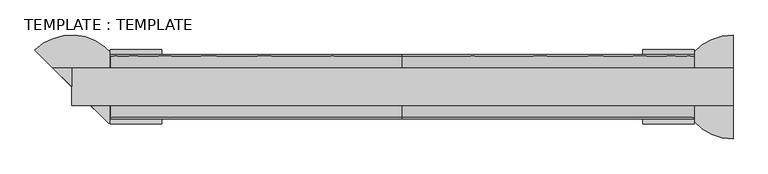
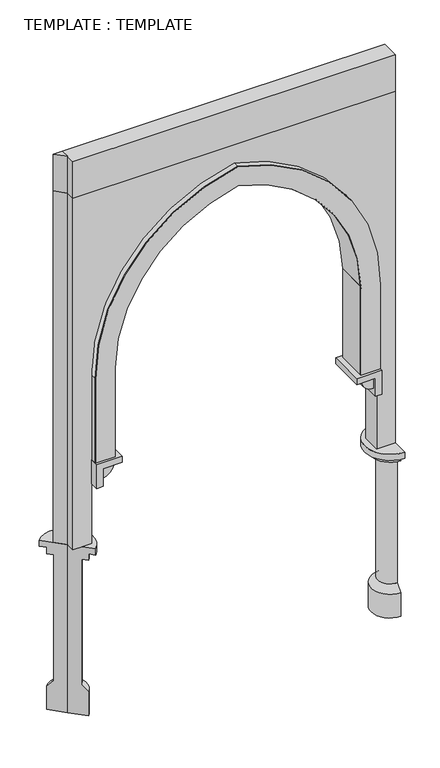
"""IFC4 building model written with IfcOpenShell, lengths in millimetres: plate geometry, TEMPLATE : TEMPLATE."""

import ifcopenshell
import ifcopenshell.guid

model = None  # the IFC model being written
_history = None  # IfcOwnerHistory: only IFC2X3 demands one
_inside = {}  # id of a spatial element -> (the spatial element, [elements in it])
_under = {}  # id of a project, library or spatial element -> (it, [spatial elements below it])
_declared = {}  # id of a project -> (the project, [libraries it declares])
_typed = {}  # id of a type object -> (the type object, [elements of that type])
_made_of = {}  # id of a material, layer set ... -> (it, [elements and type objects made of it])


def new_model(schema):
    """Start an empty IFC model of exactly this schema.

    Asked for "IFC4X3", IfcOpenShell would pick the latest addendum, in which some entities
    have other attributes; the version numbers below select the first issue.
    IFC2X3 requires an IfcOwnerHistory on every rooted entity: one is made here for all.
    """
    global model, _history
    if schema == "IFC4X3":
        model = ifcopenshell.file(schema_version=(4, 3, 0, 0))
    else:
        model = ifcopenshell.file(schema=schema)
    _inside.clear()
    _under.clear()
    _declared.clear()
    _typed.clear()
    _made_of.clear()
    _history = None
    if model.schema == "IFC2X3":
        org = make("IfcOrganization", Name="unknown")
        user = make(
            "IfcPersonAndOrganization",
            ThePerson=make("IfcPerson", FamilyName="unknown"),
            TheOrganization=org,
        )
        app = make(
            "IfcApplication",
            ApplicationDeveloper=org,
            Version="unknown",
            ApplicationFullName="unknown",
            ApplicationIdentifier="unknown",
        )
        _history = make(
            "IfcOwnerHistory",
            OwningUser=user,
            OwningApplication=app,
            ChangeAction="ADDED",
            CreationDate=0,
        )
    return model


def make(cls, **values):
    """One entity of the class cls with the attributes given. An attribute that is None is left unset."""
    return model.create_entity(
        cls, **{name: value for name, value in values.items() if value is not None}
    )


def rooted(cls, **values):
    """An entity with a GlobalId (a new one), such as an element, a storey or a relation."""
    return make(cls, GlobalId=ifcopenshell.guid.new(), OwnerHistory=_history, **values)


def si_unit(unit_type, name, prefix=None):
    """IfcSIUnit, for example si_unit("LENGTHUNIT", "METRE", prefix="MILLI")."""
    return make("IfcSIUnit", UnitType=unit_type, Prefix=prefix, Name=name)


def assignment(units):
    """IfcUnitAssignment: the units of a project."""
    return None if units is None else make("IfcUnitAssignment", Units=units)


def point(xyz):
    """IfcCartesianPoint."""
    return None if xyz is None else make("IfcCartesianPoint", Coordinates=xyz)


def direction(xyz):
    """IfcDirection."""
    return None if xyz is None else make("IfcDirection", DirectionRatios=xyz)


def frame(location, z_axis=None, x_axis=None):
    """IfcAxis2Placement3D, a coordinate frame: its origin and axes. An axis left out is left unset."""
    return make(
        "IfcAxis2Placement3D",
        Location=point(location),
        Axis=direction(z_axis),
        RefDirection=direction(x_axis),
    )


def frame_2d(location, x_axis=None):
    """IfcAxis2Placement2D, a coordinate frame in the plane: its origin and x axis."""
    return make(
        "IfcAxis2Placement2D", Location=point(location), RefDirection=direction(x_axis)
    )


def origin():
    """The frame at (0, 0, 0) with its axes left unset."""
    return frame((0.0, 0.0, 0.0))


def place(relative_to, where):
    """IfcLocalPlacement: puts the frame where relative to a parent placement (None: the world)."""
    return make(
        "IfcLocalPlacement", PlacementRelTo=relative_to, RelativePlacement=where
    )


def context(
    kind, dimensions, precision=None, world=None, true_north=None, identifier=None
):
    """IfcGeometricRepresentationContext, for example the 3D "Model" context."""
    return make(
        "IfcGeometricRepresentationContext",
        ContextIdentifier=identifier,
        ContextType=kind,
        CoordinateSpaceDimension=dimensions,
        Precision=precision,
        WorldCoordinateSystem=world,
        TrueNorth=true_north,
    )


def project(units=None, contexts=None):
    """IfcProject with its units and contexts."""
    return rooted(
        "IfcProject",
        Name="project",
        RepresentationContexts=contexts,
        UnitsInContext=assignment(units),
    )


def spatial(cls, under=None, at=None, **own):
    """A site, building, storey or space (cls), placed at a placement, below another one or the project."""
    s = rooted(cls, ObjectPlacement=at, **own)
    if under is not None:
        _under.setdefault(under.id(), (under, []))[1].append(s)
    return s


def polyline(points):
    """IfcPolyline through the points."""
    return make("IfcPolyline", Points=[point(p) for p in points])


def circle_curve(where, radius):
    """IfcCircle in the frame where."""
    return make("IfcCircle", Position=where, Radius=radius)


def trimmed(basis, trim1, trim2, sense, master):
    """IfcTrimmedCurve: the piece of a basis curve between two trims."""
    return make(
        "IfcTrimmedCurve",
        BasisCurve=basis,
        Trim1=trim1,
        Trim2=trim2,
        SenseAgreement=sense,
        MasterRepresentation=master,
    )


def segment(curve, same_sense, transition):
    """IfcCompositeCurveSegment."""
    return make(
        "IfcCompositeCurveSegment",
        Transition=transition,
        SameSense=same_sense,
        ParentCurve=curve,
    )


def composite_curve(segments, self_intersect=None):
    """IfcCompositeCurve: segments joined end to end."""
    return make("IfcCompositeCurve", Segments=segments, SelfIntersect=self_intersect)


def outline(outer, holes=None, kind="AREA"):
    """IfcArbitraryClosedProfileDef: a profile drawn as a closed curve; with holes, ...WithVoids."""
    if holes is None:
        return make("IfcArbitraryClosedProfileDef", ProfileType=kind, OuterCurve=outer)
    return make(
        "IfcArbitraryProfileDefWithVoids",
        ProfileType=kind,
        OuterCurve=outer,
        InnerCurves=holes,
    )


def extrude(swept, where, along, depth):
    """IfcExtrudedAreaSolid: the profile swept, set in the frame where, extruded along a direction by depth."""
    return make(
        "IfcExtrudedAreaSolid",
        SweptArea=swept,
        Position=where,
        ExtrudedDirection=direction(along),
        Depth=depth,
    )


def shape(context_of_items, identifier, shape_type, items):
    """IfcShapeRepresentation: the items that make up one representation, for example the "Body"."""
    return make(
        "IfcShapeRepresentation",
        ContextOfItems=context_of_items,
        RepresentationIdentifier=identifier,
        RepresentationType=shape_type,
        Items=items,
    )


def source(mapping_origin, context_of_items, identifier, shape_type, items):
    """IfcRepresentationMap: a shape defined once, which mapped items show again and again."""
    return make(
        "IfcRepresentationMap",
        MappingOrigin=mapping_origin,
        MappedRepresentation=shape(context_of_items, identifier, shape_type, items),
    )


def transform(
    local_origin,
    x_axis=None,
    y_axis=None,
    z_axis=None,
    scale=None,
    scale2=None,
    scale3=None,
    uniform=True,
):
    """IfcCartesianTransformationOperator3D, or its non-uniform kind. x_axis, y_axis, z_axis: its Axis1, 2, 3."""
    if uniform:
        return make(
            "IfcCartesianTransformationOperator3D",
            Axis1=direction(x_axis),
            Axis2=direction(y_axis),
            LocalOrigin=point(local_origin),
            Scale=scale,
            Axis3=direction(z_axis),
        )
    return make(
        "IfcCartesianTransformationOperator3DnonUniform",
        Axis1=direction(x_axis),
        Axis2=direction(y_axis),
        LocalOrigin=point(local_origin),
        Scale=scale,
        Axis3=direction(z_axis),
        Scale2=scale2,
        Scale3=scale3,
    )


def mapped(mapping_source, mapping_target):
    """IfcMappedItem: shows the shape of a source again, moved by a transform."""
    return make(
        "IfcMappedItem", MappingSource=mapping_source, MappingTarget=mapping_target
    )


def made_of(thing, what):
    """Note that an element or type object is made of a material, layer set ...; save() writes the relation."""
    if what is not None:
        _made_of.setdefault(what.id(), (what, []))[1].append(thing)
    return thing


def element(
    cls,
    number,
    at=None,
    inside=None,
    cuts=None,
    type_object=None,
    material=None,
    context=None,
    identifier="Body",
    shape_type=None,
    held_by="IfcProductDefinitionShape",
    body=None,
    shapes=None,
    **own,
):
    """One element of the class cls, such as IfcWall. Its Tag is "e" and its number.

    at: its placement. inside: the storey or other place that contains it. cuts: it is an
    opening in that element (IfcRelVoidsElement). A single representation is given by context,
    identifier, shape_type and body (its items); several are given by shapes. held_by: the class
    of the entity that holds the representations. save() writes the other relations.
    """
    e = rooted(cls, Tag="e%d" % number, ObjectPlacement=at, **own)
    if body is not None:
        shapes = [shape(context, identifier, shape_type, body)]
    if shapes is not None:
        e.Representation = make(held_by, Representations=shapes)
    if inside is not None:
        _inside.setdefault(inside.id(), (inside, []))[1].append(e)
    if cuts is not None:
        rooted(
            "IfcRelVoidsElement", RelatingBuildingElement=cuts, RelatedOpeningElement=e
        )
    if type_object is not None:
        _typed.setdefault(type_object.id(), (type_object, []))[1].append(e)
    return made_of(e, material)


def aggregate(whole, parts):
    """IfcRelAggregates: a whole, such as a stair, and the parts it consists of."""
    return rooted("IfcRelAggregates", RelatingObject=whole, RelatedObjects=parts)


def save(model, path):
    """Write the relations noted so far, then the file.

    IfcRelAggregates (storeys below a building ...), IfcRelContainedInSpatialStructure (elements
    in a storey), IfcRelDefinesByType, IfcRelAssociatesMaterial and IfcRelDeclares: one each for
    every whole, place, type object, material and project.
    """
    for whole, parts in _under.values():
        aggregate(whole, parts)
    for where, things in _inside.values():
        rooted(
            "IfcRelContainedInSpatialStructure",
            RelatedElements=things,
            RelatingStructure=where,
        )
    for kind, things in _typed.values():
        rooted("IfcRelDefinesByType", RelatedObjects=things, RelatingType=kind)
    for what, things in _made_of.values():
        rooted("IfcRelAssociatesMaterial", RelatedObjects=things, RelatingMaterial=what)
    for by, libraries in _declared.values():
        rooted("IfcRelDeclares", RelatingContext=by, RelatedDefinitions=libraries)
    model.write(path)


def plane_surface(at):
    """IfcPlane: the flat surface through the origin of the frame at, square to its z axis."""
    return make("IfcPlane", Position=at)


def cylinder_surface(at, radius):
    """IfcCylindricalSurface: all points at the distance radius from the z axis of the frame at."""
    return make("IfcCylindricalSurface", Position=at, Radius=radius)


def revolved_surface(curve, axis_point, axis_direction):
    """IfcSurfaceOfRevolution: the curve turned about the line through axis_point along axis_direction."""
    return make(
        "IfcSurfaceOfRevolution",
        SweptCurve=make("IfcArbitraryOpenProfileDef", ProfileType="CURVE", Curve=curve),
        AxisPosition=make("IfcAxis1Placement", Location=point(axis_point), Axis=direction(axis_direction)),
    )


def advanced_brep(points, edges, surfaces, faces):
    """IfcAdvancedBrep: a solid bounded by faces that lie on surfaces and meet in shared edges.

    An edge is (start, end): straight between two places in points (the first is 0);
    or (start, end, curve); or (start, end, curve, False) where it runs against its curve.
    A face is (place in surfaces, loops), or (place, loops, False) where it looks against
    its surface's normal. A loop lists edges by number (the first is 1), with a minus sign
    where the edge is run from its end to its start. The first loop is the outer one.
    """
    corners = [point(p) for p in points]
    vertices = [make("IfcVertexPoint", VertexGeometry=c) for c in corners]
    made = []
    for start, end, *more in edges:
        made.append(
            make(
                "IfcEdgeCurve",
                EdgeStart=vertices[start],
                EdgeEnd=vertices[end],
                EdgeGeometry=more[0] if more else make("IfcPolyline", Points=[corners[start], corners[end]]),
                SameSense=more[1] if len(more) > 1 else True,
            )
        )
    hull = []
    for where, loops, *sense in faces:
        bounds = []
        for j, loop in enumerate(loops):
            ring = [make("IfcOrientedEdge", EdgeElement=made[abs(k) - 1], Orientation=k > 0) for k in loop]
            bounds.append(
                make(
                    "IfcFaceOuterBound" if j == 0 else "IfcFaceBound",
                    Bound=make("IfcEdgeLoop", EdgeList=ring),
                    Orientation=True,
                )
            )
        hull.append(make("IfcAdvancedFace", Bounds=bounds, FaceSurface=surfaces[where], SameSense=sense[0] if sense else True))
    return make("IfcAdvancedBrep", Outer=make("IfcClosedShell", CfsFaces=hull))


def template_template_bfb4942e(model_context):
    return source(origin(), model_context, "Body", "SolidModel", [
        extrude(outline(polyline([(-1250.0, 0.0), (-1321.2450521, 71.2450521), (-1250.0, 71.2450521), (-1250.0, 0.0)])), frame((0.0, 0.0, 4250.0), z_axis=(0.0, 0.0, 1.0), x_axis=(1.0, 0.0, 0.0)), (0.0, 0.0, 1.0), 300.0),
        extrude(outline(polyline([(1250.0, -71.2450521), (-1250.0, -71.2450521), (-1250.0, 71.2450521), (1250.0, 71.2450521), (1250.0, -71.2450521)])), frame((0.0, 0.0, 4250.0), z_axis=(0.0, 0.0, 1.0), x_axis=(1.0, 0.0, 0.0)), (0.0, 0.0, 1.0), 300.0),
        extrude(outline(composite_curve([segment(polyline([(2062.5, -1103.90625), (2062.5, -952.8125), (2789.7201638, -952.8125)]), True, "CONTINUOUS"), segment(trimmed(circle_curve(frame_2d((2770.9553186, 249.8536177)), 1202.8125), [point((2789.7201638, -952.8125))], [point((3947.5313169, 0.0))], True, "CARTESIAN"), True, "CONTINUOUS"), segment(trimmed(circle_curve(frame_2d((2770.9553186, -249.8536177)), 1202.8125), [point((3947.5313169, 0.0))], [point((2789.7201638, 952.8125))], True, "CARTESIAN"), True, "CONTINUOUS"), segment(polyline([(2789.7201638, 952.8125), (2062.5, 952.8125), (2062.5, 1103.90625), (2751.0466695, 1103.90625)]), True, "CONTINUOUS"), segment(trimmed(circle_curve(frame_2d((2770.9553186, -249.8536177)), 1353.90625), [point((2751.0466695, 1103.90625))], [point((4101.6075284, 0.0))], False, "CARTESIAN"), True, "CONTINUOUS"), segment(trimmed(circle_curve(frame_2d((2770.9553186, 249.8536177)), 1353.90625), [point((4101.6075284, 0.0))], [point((2751.0466695, -1103.90625))], False, "CARTESIAN"), True, "CONTINUOUS"), segment(polyline([(2751.0466695, -1103.90625), (2062.5, -1103.90625)]), True, "CONTINUOUS")], self_intersect=False)), frame((0.0, -121.8675781, 0.0), z_axis=(0.0, 1.0, 0.0), x_axis=(0.0, 0.0, 1.0)), (0.0, 0.0, 1.0), 5.0),
        extrude(outline(polyline([(-1250.0, 0.0), (-1321.2450521, 71.2450521), (-1250.0, 71.2450521), (-1250.0, 0.0)])), frame((0.0, 0.0, 1375.0), z_axis=(0.0, 0.0, 1.0), x_axis=(1.0, 0.0, 0.0)), (0.0, 0.0, 1.0), 2875.0),
        extrude(outline(composite_curve([segment(trimmed(circle_curve(frame_2d((2770.9553186, -249.8536177)), 1207.8125), [point((2789.7591277, 957.8125))], [point((3952.642335, 0.0))], False, "CARTESIAN"), True, "CONTINUOUS"), segment(trimmed(circle_curve(frame_2d((2770.9553186, 249.8536177)), 1207.8125), [point((3952.642335, 0.0))], [point((2789.7591277, -957.8125))], False, "CARTESIAN"), True, "CONTINUOUS"), segment(polyline([(2789.7591277, -957.8125), (2789.6812853, -952.813106)]), True, "CONTINUOUS"), segment(trimmed(circle_curve(frame_2d((2770.9553186, 249.8536177)), 1202.8125), [point((2789.6812853, -952.813106))], [point((3947.5313169, 0.0))], True, "CARTESIAN"), True, "CONTINUOUS"), segment(trimmed(circle_curve(frame_2d((2770.9553186, -249.8536177)), 1202.8125), [point((3947.5313169, 0.0))], [point((2789.6812853, 952.813106))], True, "CARTESIAN"), True, "CONTINUOUS"), segment(polyline([(2789.6812853, 952.813106), (2789.7591277, 957.8125)]), True, "CONTINUOUS")], self_intersect=False)), frame((0.0, -116.8675781, 0.0), z_axis=(0.0, 1.0, 0.0), x_axis=(0.0, 0.0, 1.0)), (0.0, 0.0, 1.0), 238.7351563),
        extrude(outline(polyline([(957.8125, -116.8675781), (952.8125, -116.8675781), (952.8125, 121.8675781), (957.8125, 121.8675781), (957.8125, -116.8675781)])), frame((0.0, 0.0, 2062.5), z_axis=(0.0, 0.0, 1.0), x_axis=(1.0, 0.0, 0.0)), (0.0, 0.0, 1.0), 727.2591277),
        extrude(outline(polyline([(-952.8125, -116.8675781), (-957.8125, -116.8675781), (-957.8125, 121.8675781), (-952.8125, 121.8675781), (-952.8125, -116.8675781)])), frame((0.0, 0.0, 2062.5), z_axis=(0.0, 0.0, 1.0), x_axis=(1.0, 0.0, 0.0)), (0.0, 0.0, 1.0), 727.2591277),
        extrude(outline(composite_curve([segment(polyline([(2013.8020833, 1055.2083333), (2013.8020833, 957.8125)]), True, "CONTINUOUS"), segment(trimmed(circle_curve(frame_2d((2013.8020833, 1055.2083333)), 97.3958333), [point((2013.8020833, 957.8125))], [point((1916.40625, 1055.2083333))], False, "CARTESIAN"), True, "CONTINUOUS"), segment(polyline([(1916.40625, 1055.2083333), (2013.8020833, 1055.2083333)]), True, "CONTINUOUS")], self_intersect=False)), frame((0.0, -116.8675781, 0.0), z_axis=(0.0, 1.0, 0.0), x_axis=(0.0, 0.0, 1.0)), (0.0, 0.0, 1.0), 238.7351563),
        extrude(outline(composite_curve([segment(polyline([(2013.8020833, -1055.2083333), (1916.40625, -1055.2083333)]), True, "CONTINUOUS"), segment(trimmed(circle_curve(frame_2d((2013.8020833, -1055.2083333)), 97.3958333), [point((1916.40625, -1055.2083333))], [point((2013.8020833, -957.8125))], False, "CARTESIAN"), True, "CONTINUOUS"), segment(polyline([(2013.8020833, -957.8125), (2013.8020833, -1055.2083333)]), True, "CONTINUOUS")], self_intersect=False)), frame((0.0, -116.8675781, 0.0), z_axis=(0.0, 1.0, 0.0), x_axis=(0.0, 0.0, 1.0)), (0.0, 0.0, 1.0), 238.7351563),
        advanced_brep(
        [(-1110.8841065, -139.1158935, 1375.0), (-1250.0, 0.0, 1375.0), (-1250.0, 0.0, 0.0), (-1146.6961187, -103.3038813, 0.0), (-1146.6961187, -103.3038813, 194.7916667), (-1181.1307458, -68.8692542, 245.4375), (-1181.1307458, -68.8692542, 1273.7083333), (-1146.6961187, -103.3038813, 1273.7083333), (-1146.6961187, -103.3038813, 1324.3541667), (-1110.8841065, -139.1158935, 1324.3541667), (-1389.1158935, 139.1158935, 1375.0), (-1389.1158935, 139.1158935, 1324.3541667), (-1353.3038813, 103.3038813, 1324.3541667), (-1353.3038813, 103.3038813, 1273.7083333), (-1318.8692542, 68.8692542, 1273.7083333), (-1318.8692542, 68.8692542, 245.4375), (-1353.3038813, 103.3038813, 194.7916667), (-1353.3038813, 103.3038813, 0.0)],
        [
            (0, 1),
            (1, 2),
            (2, 3),
            (3, 4),
            (4, 5),
            (5, 6),
            (6, 7),
            (7, 8),
            (8, 9),
            (9, 0),
            (10, 11),
            (11, 12),
            (12, 13),
            (13, 14),
            (14, 15),
            (15, 16),
            (16, 17),
            (17, 2),
            (1, 10),
            (10, 0, circle_curve(frame((-1250.0, 0.0, 1375.0), z_axis=(0.0, 0.0, -1.0), x_axis=(0.7071067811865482, -0.707106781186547, 0.0)), 196.7395833)),
            (9, 11, circle_curve(frame((-1250.0, 0.0, 1324.3541667), z_axis=(0.0, 0.0, 1.0), x_axis=(0.7071067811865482, -0.707106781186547, 0.0)), 196.7395833)),
            (8, 12, circle_curve(frame((-1250.0, 0.0, 1324.3541667), z_axis=(0.0, 0.0, 1.0), x_axis=(0.7071067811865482, -0.707106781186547, 0.0)), 146.09375)),
            (7, 13, circle_curve(frame((-1250.0, 0.0, 1273.7083333), z_axis=(0.0, 0.0, 1.0), x_axis=(0.7071067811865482, -0.707106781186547, 0.0)), 146.09375)),
            (6, 14, circle_curve(frame((-1250.0, 0.0, 1273.7083333), z_axis=(0.0, 0.0, 1.0), x_axis=(0.7071067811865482, -0.707106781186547, 0.0)), 97.3958333)),
            (5, 15, circle_curve(frame((-1250.0, 0.0, 245.4375), z_axis=(0.0, 0.0, 1.0), x_axis=(0.7071067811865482, -0.707106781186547, 0.0)), 97.3958333)),
            (4, 16, circle_curve(frame((-1250.0, 0.0, 194.7916667), z_axis=(0.0, 0.0, 1.0), x_axis=(0.7071067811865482, -0.707106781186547, 0.0)), 146.09375)),
            (3, 17, circle_curve(frame((-1250.0, 0.0, 0.0), z_axis=(0.0, 0.0, 1.0), x_axis=(0.7071067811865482, -0.707106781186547, 0.0)), 146.09375)),
        ],
        [
            plane_surface(frame((-1250.0, 0.0, -1400.0), z_axis=(-0.707106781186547, -0.7071067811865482, 0.0), x_axis=(0.7071067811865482, -0.707106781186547, 0.0))),
            plane_surface(frame((-1250.0, 0.0, -1400.0), z_axis=(-0.7071067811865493, -0.7071067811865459, 0.0), x_axis=(-0.7071067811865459, 0.7071067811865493, 0.0))),
            cylinder_surface(frame((-1250.0, 0.0, -1400.0), z_axis=(0.0, 0.0, 1.0), x_axis=(0.7071067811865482, -0.707106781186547, 0.0)), 196.7395833),
            plane_surface(frame((-1250.0, 0.0, 1324.3541667), z_axis=(0.0, 0.0, -1.0000000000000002), x_axis=(0.7071067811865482, -0.707106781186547, 0.0))),
            cylinder_surface(frame((-1250.0, 0.0, -1400.0), z_axis=(0.0, 0.0, 1.0), x_axis=(0.7071067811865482, -0.707106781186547, 0.0)), 146.09375),
            plane_surface(frame((-1250.0, 0.0, 1273.7083333), z_axis=(0.0, 0.0, -1.0000000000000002), x_axis=(0.7071067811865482, -0.707106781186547, 0.0))),
            cylinder_surface(frame((-1250.0, 0.0, -1400.0), z_axis=(0.0, 0.0, 1.0), x_axis=(0.7071067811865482, -0.707106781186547, 0.0)), 97.3958333),
            revolved_surface(polyline([(-1146.6961187, -103.3038813, 194.7916667), (-1181.1307458, -68.8692542, 245.4375)]), (-1250.0, 0.0, -1400.0), (0.0, 0.0, 1.0)),
            plane_surface(frame((-1250.0, 0.0, 0.0), z_axis=(0.0, 0.0, -1.0000000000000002), x_axis=(0.7071067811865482, -0.707106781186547, 0.0))),
            plane_surface(frame((-1250.0, 0.0, 1375.0), z_axis=(0.0, 0.0, 1.0000000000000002), x_axis=(0.7071067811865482, -0.707106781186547, 0.0))),
        ],
        [
            (0, [[1, 2, 3, 4, 5, 6, 7, 8, 9, 10]]),
            (1, [[11, 12, 13, 14, 15, 16, 17, 18, -2, 19]]),
            (2, [[20, -10, 21, -11]]),
            (3, [[-21, -9, 22, -12]]),
            (4, [[-22, -8, 23, -13]]),
            (5, [[-23, -7, 24, -14]]),
            (6, [[-24, -6, 25, -15]]),
            (7, [[-25, -5, 26, -16]]),
            (4, [[-26, -4, 27, -17]]),
            (8, [[-27, -3, -18]]),
            (9, [[-1, -20, -19]]),
        ],
    ),
        extrude(outline(polyline([(2062.5, 1103.90625), (2062.5, 909.1145833), (2013.8020833, 909.1145833), (2013.8020833, 1055.2083333), (1867.7083333, 1055.2083333), (1867.7083333, 1103.90625), (2062.5, 1103.90625)])), frame((0.0, -141.2165365, 0.0), z_axis=(0.0, 1.0, 0.0), x_axis=(0.0, 0.0, 1.0)), (0.0, 0.0, 1.0), 282.4330729),
        extrude(outline(polyline([(2062.5, -1103.90625), (1867.7083333, -1103.90625), (1867.7083333, -1055.2083333), (2013.8020833, -1055.2083333), (2013.8020833, -909.1145833), (2062.5, -909.1145833), (2062.5, -1103.90625)])), frame((0.0, -141.2165365, 0.0), z_axis=(0.0, 1.0, 0.0), x_axis=(0.0, 0.0, 1.0)), (0.0, 0.0, 1.0), 282.4330729),
        advanced_brep(
        [(1250.0, -196.7395833, 1375.0), (1250.0, -196.7395833, 1324.3541667), (1250.0, -146.09375, 1324.3541667), (1250.0, -146.09375, 1273.7083333), (1250.0, -97.3958333, 1273.7083333), (1250.0, -97.3958333, 245.4375), (1250.0, -146.09375, 194.7916667), (1250.0, -146.09375, 0.0), (1250.0, 0.0, 0.0), (1250.0, 0.0, 1375.0), (1250.0, 196.7395833, 1375.0), (1250.0, 146.09375, 0.0), (1250.0, 146.09375, 194.7916667), (1250.0, 97.3958333, 245.4375), (1250.0, 97.3958333, 1273.7083333), (1250.0, 146.09375, 1273.7083333), (1250.0, 146.09375, 1324.3541667), (1250.0, 196.7395833, 1324.3541667)],
        [
            (0, 1),
            (1, 2),
            (2, 3),
            (3, 4),
            (4, 5),
            (5, 6),
            (6, 7),
            (7, 8),
            (8, 9),
            (9, 0),
            (10, 9),
            (8, 11),
            (11, 12),
            (12, 13),
            (13, 14),
            (14, 15),
            (15, 16),
            (16, 17),
            (17, 10),
            (17, 1, circle_curve(frame((1250.0, 0.0, 1324.3541667), z_axis=(0.0, 0.0, 1.0), x_axis=(0.0, -1.0000000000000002, 0.0)), 196.7395833)),
            (0, 10, circle_curve(frame((1250.0, 0.0, 1375.0), z_axis=(0.0, 0.0, -1.0), x_axis=(0.0, -1.0000000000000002, 0.0)), 196.7395833)),
            (16, 2, circle_curve(frame((1250.0, 0.0, 1324.3541667), z_axis=(0.0, 0.0, 1.0), x_axis=(0.0, -1.0000000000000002, 0.0)), 146.09375)),
            (15, 3, circle_curve(frame((1250.0, 0.0, 1273.7083333), z_axis=(0.0, 0.0, 1.0), x_axis=(0.0, -1.0000000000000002, 0.0)), 146.09375)),
            (14, 4, circle_curve(frame((1250.0, 0.0, 1273.7083333), z_axis=(0.0, 0.0, 1.0), x_axis=(0.0, -1.0000000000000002, 0.0)), 97.3958333)),
            (13, 5, circle_curve(frame((1250.0, 0.0, 245.4375), z_axis=(0.0, 0.0, 1.0), x_axis=(0.0, -1.0000000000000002, 0.0)), 97.3958333)),
            (12, 6, circle_curve(frame((1250.0, 0.0, 194.7916667), z_axis=(0.0, 0.0, 1.0), x_axis=(0.0, -1.0000000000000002, 0.0)), 146.09375)),
            (11, 7, circle_curve(frame((1250.0, 0.0, 0.0), z_axis=(0.0, 0.0, 1.0), x_axis=(0.0, -1.0000000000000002, 0.0)), 146.09375)),
        ],
        [
            plane_surface(frame((1250.0, 0.0, -1400.0), z_axis=(1.0, 0.0, 0.0), x_axis=(0.0, -1.0, 0.0))),
            plane_surface(frame((1250.0, 0.0, -1400.0), z_axis=(1.0, 0.0, 0.0), x_axis=(0.0, 1.0, 0.0))),
            cylinder_surface(frame((1250.0, 0.0, -1400.0), z_axis=(0.0, 0.0, -1.0), x_axis=(0.0, -1.0000000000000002, 0.0)), 196.7395833),
            plane_surface(frame((1250.0, 0.0, 1324.3541667), z_axis=(0.0, 0.0, -1.0), x_axis=(0.0, -1.0, 0.0))),
            cylinder_surface(frame((1250.0, 0.0, -1400.0), z_axis=(0.0, 0.0, -1.0), x_axis=(0.0, -1.0000000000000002, 0.0)), 146.09375),
            plane_surface(frame((1250.0, 0.0, 1273.7083333), z_axis=(0.0, 0.0, -1.0), x_axis=(0.0, -1.0, 0.0))),
            cylinder_surface(frame((1250.0, 0.0, -1400.0), z_axis=(0.0, 0.0, -1.0), x_axis=(0.0, -1.0000000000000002, 0.0)), 97.3958333),
            revolved_surface(polyline([(1250.0, -97.3958333, 245.4375), (1250.0, -146.09375, 194.7916667)]), (1250.0, 0.0, -1400.0), (0.0, 0.0, -1.0)),
            plane_surface(frame((1250.0, 0.0, 0.0), z_axis=(0.0, 0.0, -1.0), x_axis=(0.0, -1.0, 0.0))),
            plane_surface(frame((1250.0, 0.0, 1375.0), z_axis=(0.0, 0.0, 1.0), x_axis=(0.0, -1.0, 0.0))),
        ],
        [
            (0, [[1, 2, 3, 4, 5, 6, 7, 8, 9, 10]]),
            (1, [[11, -9, 12, 13, 14, 15, 16, 17, 18, 19]]),
            (2, [[20, -1, 21, -19]]),
            (3, [[22, -2, -20, -18]]),
            (4, [[23, -3, -22, -17]]),
            (5, [[24, -4, -23, -16]]),
            (6, [[25, -5, -24, -15]]),
            (7, [[26, -6, -25, -14]]),
            (4, [[27, -7, -26, -13]]),
            (8, [[-8, -27, -12]]),
            (9, [[-21, -10, -11]]),
        ],
    ),
        extrude(outline(composite_curve([segment(polyline([(1375.0, 1250.0), (4250.0, 1250.0), (4250.0, -1250.0), (1375.0, -1250.0), (1375.0, -1103.90625), (2790.8639676, -1103.90625)]), True, "CONTINUOUS"), segment(trimmed(circle_curve(frame_2d((2770.9553186, 249.8536177)), 1353.90625), [point((2790.8639676, -1103.90625))], [point((4101.6075284, 0.0))], True, "CARTESIAN"), True, "CONTINUOUS"), segment(trimmed(circle_curve(frame_2d((2770.9553186, -249.8536177)), 1353.90625), [point((4101.6075284, 0.0))], [point((2790.8639676, 1103.90625))], True, "CARTESIAN"), True, "CONTINUOUS"), segment(polyline([(2790.8639676, 1103.90625), (1375.0, 1103.90625), (1375.0, 1250.0)]), True, "CONTINUOUS")], self_intersect=False)), frame((0.0, -71.2450521, 0.0), z_axis=(0.0, 1.0, 0.0), x_axis=(0.0, 0.0, 1.0)), (0.0, 0.0, 1.0), 142.4901042),
        extrude(outline(composite_curve([segment(trimmed(circle_curve(frame_2d((2770.9553186, 249.8536177)), 1353.90625), [point((4101.6075284, 0.0))], [point((2790.8639676, -1103.90625))], False, "CARTESIAN"), True, "CONTINUOUS"), segment(polyline([(2790.8639676, -1103.90625), (2062.5, -1103.90625), (2062.5, -957.8125), (2789.7591277, -957.8125)]), True, "CONTINUOUS"), segment(trimmed(circle_curve(frame_2d((2770.9553186, 249.8536177)), 1207.8125), [point((2789.7591277, -957.8125))], [point((3952.642335, 0.0))], True, "CARTESIAN"), True, "CONTINUOUS"), segment(trimmed(circle_curve(frame_2d((2770.9553186, -249.8536177)), 1207.8125), [point((3952.642335, 0.0))], [point((2789.7591277, 957.8125))], True, "CARTESIAN"), True, "CONTINUOUS"), segment(polyline([(2789.7591277, 957.8125), (2062.5, 957.8125), (2062.5, 1103.90625), (2790.8639676, 1103.90625)]), True, "CONTINUOUS"), segment(trimmed(circle_curve(frame_2d((2770.9553186, -249.8536177)), 1353.90625), [point((2790.8639676, 1103.90625))], [point((4101.6075284, 0.0))], False, "CARTESIAN"), True, "CONTINUOUS")], self_intersect=False)), frame((0.0, 116.8675781, 0.0), z_axis=(0.0, 1.0, 0.0), x_axis=(0.0, 0.0, 1.0)), (0.0, 0.0, 1.0), 5.0),
        extrude(outline(polyline([(-957.8125, 116.8675781), (-957.8125, -116.8675781), (-1103.90625, -116.8675781), (-1103.90625, 116.8675781), (-957.8125, 116.8675781)])), frame((0.0, 0.0, 2062.5), z_axis=(0.0, 0.0, 1.0), x_axis=(1.0, 0.0, 0.0)), (0.0, 0.0, 1.0), 687.5),
        extrude(outline(polyline([(957.8125, 116.8675781), (1103.90625, 116.8675781), (1103.90625, -116.8675781), (957.8125, -116.8675781), (957.8125, 116.8675781)])), frame((0.0, 0.0, 2062.5), z_axis=(0.0, 0.0, 1.0), x_axis=(1.0, 0.0, 0.0)), (0.0, 0.0, 1.0), 687.5),
        extrude(outline(composite_curve([segment(trimmed(circle_curve(frame_2d((2770.9553186, 249.8536177)), 1207.8125), [point((2754.0819214, -957.841014))], [point((3952.642335, 0.0))], True, "CARTESIAN"), True, "CONTINUOUS"), segment(trimmed(circle_curve(frame_2d((2770.9553186, -249.8536177)), 1207.8125), [point((3952.642335, 0.0))], [point((2754.0819214, 957.841014))], True, "CARTESIAN"), True, "CONTINUOUS"), segment(polyline([(2754.0819214, 957.841014), (2752.0409607, 1103.920507)]), True, "CONTINUOUS"), segment(trimmed(circle_curve(frame_2d((2770.9553186, -249.8536177)), 1353.90625), [point((2752.0409607, 1103.920507))], [point((4101.6075284, 0.0))], False, "CARTESIAN"), True, "CONTINUOUS"), segment(trimmed(circle_curve(frame_2d((2770.9553186, 249.8536177)), 1353.90625), [point((4101.6075284, 0.0))], [point((2752.0409607, -1103.920507))], False, "CARTESIAN"), True, "CONTINUOUS"), segment(polyline([(2752.0409607, -1103.920507), (2754.0819214, -957.841014)]), True, "CONTINUOUS")], self_intersect=False)), frame((0.0, -116.8675781, 0.0), z_axis=(0.0, 1.0, 0.0), x_axis=(0.0, 0.0, 1.0)), (0.0, 0.0, 1.0), 233.7351563),
    ])


if __name__ == "__main__":
    model = new_model("IFC4")
    model_context = context("Model", 3, world=origin())
    ifc_project = project(units=[si_unit("LENGTHUNIT", "METRE", prefix="MILLI")], contexts=[model_context])
    site = spatial("IfcSite", under=ifc_project)
    building = spatial("IfcBuilding", under=site)
    placement = place(None, origin())
    template_template_shape = template_template_bfb4942e(model_context)
    element("IfcPlate", 1, ObjectType="TEMPLATE : TEMPLATE", at=placement, inside=building, context=model_context, shape_type="MappedRepresentation", body=[
        mapped(template_template_shape, transform((0.0, 0.0, 0.0), x_axis=(1.0, 0.0, 0.0), y_axis=(0.0, 1.0, 0.0), z_axis=(0.0, 0.0, 1.0))),
    ])
    save(model, "model.ifc")
